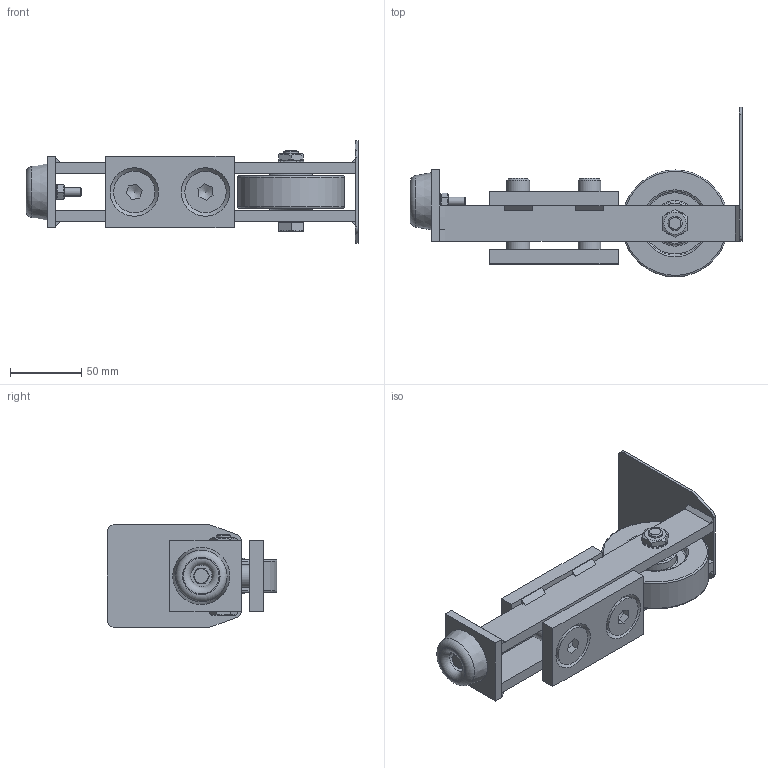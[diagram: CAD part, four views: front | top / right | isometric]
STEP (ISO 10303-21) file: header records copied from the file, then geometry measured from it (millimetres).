
FILE_DESCRIPTION(/* description */ ('Auflaufrolle zu FRT Nr.5'),/* implementation_level */ '2;1');
FILE_NAME(/* name */ 'C:\Users\avlesti\Desktop\010337815.stp',/* time_stamp */ '2021-04-21T09:20:14+02:00',/* author */ ('avlesti'),/* organization */ (''),/* preprocessor_version */ 'ST-DEVELOPER v17.2',/* originating_system */ 'Autodesk Inventor 2019',/* authorisation */ '');
FILE_SCHEMA (('AUTOMOTIVE_DESIGN { 1 0 10303 214 3 1 1 }'));
Length unit declared in the file: millimetre
Products named in the file (18): 010337815; 000440004; 000440004_1; 337000343; 337000340; 337000342; 337000341; 337000345; 337000344; 004203041; 000302253; DIN 6798 - A  6,4; DIN EN ISO 4032 - M6; DIN 933 - M6  x 30; DIN 933 - M10  x 50; DIN 439 - M10; DIN 6798 - A  10,5; DIN EN ISO 10642 - M16  x  60
Assembly tree (19 placements, depth 3):
  010337815
    000440004
      000440004_1
      337000341  x2
      337000343
      337000340
      337000342
    337000345
    337000344
    004203041
    000302253
    DIN 6798 - A  6,4
    DIN EN ISO 4032 - M6
    DIN 933 - M6  x 30
    DIN 933 - M10  x 50
    DIN 439 - M10
    DIN 6798 - A  10,5
    DIN EN ISO 10642 - M16  x  60  x2
Bounding box: 233 x 119 x 72 mm (x, y, z)
Volume: 327619.5 mm3; surface area: 112300 mm2
Topology: 27 solids, 27 shells, 403 faces, 1058 edges, 718 vertices
Faces by surface type: plane 211, cylinder 147, cone 33, torus 12
Full cylindrical faces by diameter (mm): 4.917 x1, 5.459 x1, 6 x1, 6.4 x1, 6.5 x1, 7 x1, 8.376 x1, 8.7 x1, 9.188 x1, 10 x1, 10.5 x4, 13.835 x2, 14.5 x1, 15 x2, 15.4 x1, 16 x2, 17 x2, 29.01 x2, 30 x2, 45 x2, 75 x1
Entity records: 12752 total; most frequent: CARTESIAN_POINT 2219, DIRECTION 2208, ORIENTED_EDGE 2012, EDGE_CURVE 1006, AXIS2_PLACEMENT_3D 837, VERTEX_POINT 683, LINE 534, VECTOR 534
